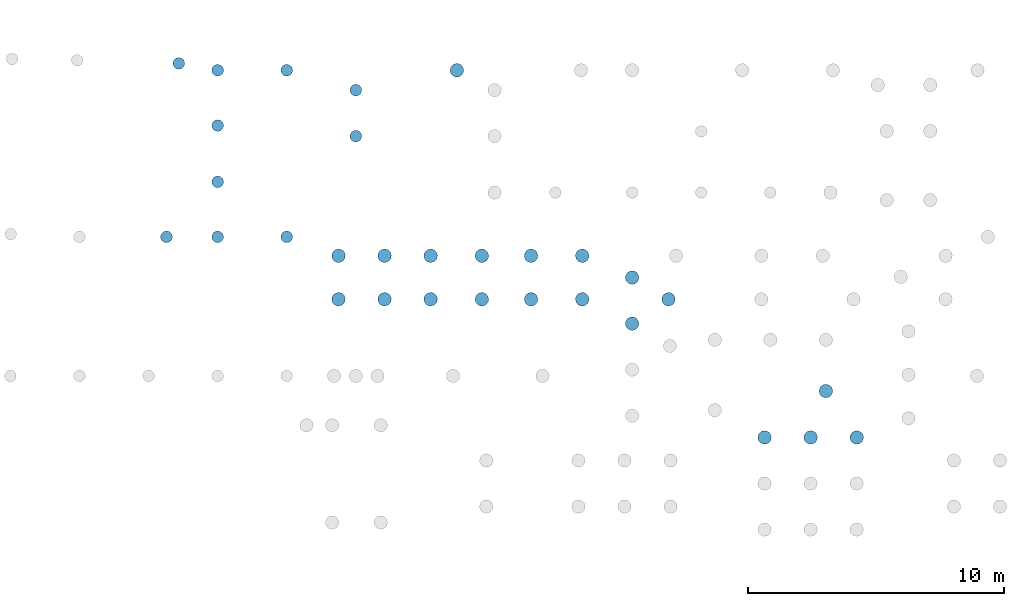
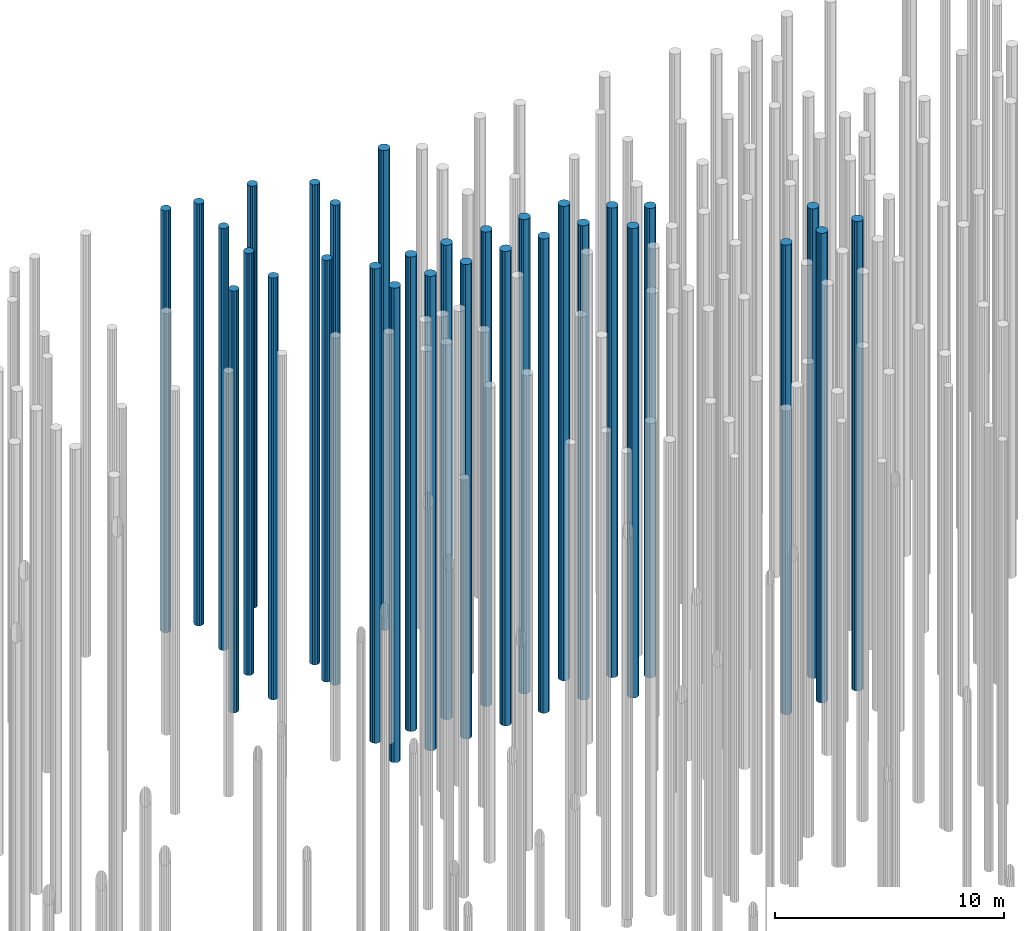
# One storey, part 16 of 20: 30 piles.
"""IFC2X3 building model written with IfcOpenShell, lengths in millimetres."""

from ifc_helpers import new_model, entity, si_unit, converted_unit, derived_unit, direction, frame, origin, place, context, subcontext, project, spatial, polyline, outline, extrude, material, element, save


model = new_model("IFC2X3")

# Units and contexts
model_context = context("Model", 3, precision=0.01, world=origin(), true_north=direction((6.12303176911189e-17, 1.0)))
body_context = subcontext(model_context, "Body", "Model", "MODEL_VIEW")
ifc_project = project(units=[si_unit("LENGTHUNIT", "METRE", prefix="MILLI"), si_unit("AREAUNIT", "SQUARE_METRE"), si_unit("VOLUMEUNIT", "CUBIC_METRE"), converted_unit("PLANEANGLEUNIT", "DEGREE", entity("IfcRatioMeasure", 0.0174532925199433), si_unit("PLANEANGLEUNIT", "RADIAN"), dimensions=[0, 0, 0, 0, 0, 0, 0]), si_unit("MASSUNIT", "GRAM", prefix="KILO"), derived_unit("MASSDENSITYUNIT", [(si_unit("MASSUNIT", "GRAM", prefix="KILO"), 1), (si_unit("LENGTHUNIT", "METRE"), -3)]), si_unit("TIMEUNIT", "SECOND"), si_unit("FREQUENCYUNIT", "HERTZ"), si_unit("THERMODYNAMICTEMPERATUREUNIT", "DEGREE_CELSIUS"), derived_unit("THERMALTRANSMITTANCEUNIT", [(si_unit("MASSUNIT", "GRAM", prefix="KILO"), 1), (si_unit("THERMODYNAMICTEMPERATUREUNIT", "KELVIN"), -1), (si_unit("TIMEUNIT", "SECOND"), -3)]), derived_unit("VOLUMETRICFLOWRATEUNIT", [(si_unit("LENGTHUNIT", "METRE"), 3), (si_unit("TIMEUNIT", "SECOND"), -1)]), si_unit("ELECTRICCURRENTUNIT", "AMPERE"), si_unit("ELECTRICVOLTAGEUNIT", "VOLT"), si_unit("POWERUNIT", "WATT"), si_unit("FORCEUNIT", "NEWTON", prefix="KILO"), si_unit("ILLUMINANCEUNIT", "LUX"), si_unit("LUMINOUSFLUXUNIT", "LUMEN"), si_unit("LUMINOUSINTENSITYUNIT", "CANDELA"), derived_unit("USERDEFINED", [(si_unit("MASSUNIT", "GRAM", prefix="KILO"), -1), (si_unit("LENGTHUNIT", "METRE"), -2), (si_unit("TIMEUNIT", "SECOND"), 3), (si_unit("LUMINOUSFLUXUNIT", "LUMEN"), 1)]), derived_unit("LINEARVELOCITYUNIT", [(si_unit("LENGTHUNIT", "METRE"), 1), (si_unit("TIMEUNIT", "SECOND"), -1)]), si_unit("PRESSUREUNIT", "PASCAL"), derived_unit("USERDEFINED", [(si_unit("LENGTHUNIT", "METRE"), -2), (si_unit("MASSUNIT", "GRAM", prefix="KILO"), 1), (si_unit("TIMEUNIT", "SECOND"), -2)])], contexts=[model_context])

# Site, building, storey
site_placement = place(None, origin())
site = spatial("IfcSite", under=ifc_project, at=site_placement, Name="Default", CompositionType="ELEMENT")
building_placement = place(site_placement, origin())
building = spatial("IfcBuilding", under=site, at=building_placement, Name="niet gebruiken", CompositionType="ELEMENT")
storey_placement = place(building_placement, frame((0.0, 0.0, -4000.0)))
storey = spatial("IfcBuildingStorey", under=building, at=storey_placement, Name="Level t.b.v. palenplan", CompositionType="ELEMENT", Elevation=-4000.0)

# Piles
ifc_material = material(Name="NLRS_f2_beton ihwg")
pile_1_placement = place(storey_placement, origin())
element("IfcPile", 1, at=pile_1_placement, inside=storey, material=ifc_material, Name="NLRS_17.12_SFO_TLB_funderingspaal grondverdringend_gen:Fundex_r530/650", ObjectType="NLRS_17.12_SFO_TLB_funderingspaal grondverdringend_gen:Fundex_r530/650", context=body_context, shape_type="SweptSolid", body=[
    extrude(outline(polyline([(-55.0965980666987, -259.209114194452), (55.0965980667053, -259.209114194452), (155.76309185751, -214.389503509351), (229.496732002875, -132.499999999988), (263.548302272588, -27.7000427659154), (252.029976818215, 81.8895035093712), (196.933378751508, 177.319610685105), (107.785210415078, 242.089546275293), (55.0965980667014, 259.209114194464), (-55.0965980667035, 259.20911419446), (-155.763091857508, 214.389503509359), (-229.496732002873, 132.499999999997), (-263.548302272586, 27.7000427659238), (-252.029976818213, -81.8895035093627), (-196.933378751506, -177.319610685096), (-107.785210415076, -242.089546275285), (-55.0965980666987, -259.209114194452)])), frame((95175.0, 38781.0, -23100.0), z_axis=(0.0, 0.0, 1.0), x_axis=(-0.97814760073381, -0.207911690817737, 0.0)), (0.0, 0.0, 1.0), 25070.0),
])
pile_2_placement = place(storey_placement, origin())
element("IfcPile", 2, at=pile_2_placement, inside=storey, material=ifc_material, Name="NLRS_17.12_SFO_TLB_funderingspaal grondverdringend_gen:Fundex_r530/650", ObjectType="NLRS_17.12_SFO_TLB_funderingspaal grondverdringend_gen:Fundex_r530/650", context=body_context, shape_type="SweptSolid", body=[
    extrude(outline(polyline([(-55.0965980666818, -259.209114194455), (55.0965980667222, -259.209114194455), (155.763091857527, -214.389503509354), (229.496732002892, -132.499999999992), (263.548302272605, -27.700042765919), (252.029976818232, 81.8895035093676), (196.933378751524, 177.319610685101), (107.785210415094, 242.08954627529), (55.0965980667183, 259.209114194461), (-55.0965980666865, 259.209114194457), (-155.763091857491, 214.389503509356), (-229.496732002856, 132.499999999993), (-263.548302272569, 27.7000427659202), (-252.029976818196, -81.8895035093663), (-196.933378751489, -177.3196106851), (-107.785210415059, -242.089546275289), (-55.0965980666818, -259.209114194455)])), frame((93375.0, 38781.0, -23100.0), z_axis=(0.0, 0.0, 1.0), x_axis=(-0.97814760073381, -0.207911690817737, 0.0)), (0.0, 0.0, 1.0), 25070.0),
])
pile_3_placement = place(storey_placement, origin())
element("IfcPile", 3, at=pile_3_placement, inside=storey, material=ifc_material, Name="NLRS_17.12_SFO_TLB_funderingspaal grondverdringend_gen:Fundex_r530/650", ObjectType="NLRS_17.12_SFO_TLB_funderingspaal grondverdringend_gen:Fundex_r530/650", context=body_context, shape_type="SweptSolid", body=[
    extrude(outline(polyline([(-55.0965980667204, -259.209114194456), (55.0965980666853, -259.209114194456), (155.763091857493, -214.389503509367), (229.496732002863, -132.500000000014), (263.548302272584, -27.7000427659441), (252.029976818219, 81.8895035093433), (196.93337875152, 177.319610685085), (107.785210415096, 242.089546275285), (55.0965980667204, 259.209114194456), (-55.0965980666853, 259.209114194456), (-155.763091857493, 214.389503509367), (-229.496732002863, 132.500000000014), (-263.548302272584, 27.7000427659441), (-252.029976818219, -81.8895035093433), (-196.93337875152, -177.319610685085), (-107.785210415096, -242.089546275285), (-55.0965980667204, -259.209114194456)])), frame((86400.0, 43231.0, -23100.0), z_axis=(0.0, 0.0, 1.0), x_axis=(-0.978147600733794, -0.207911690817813, 0.0)), (0.0, 0.0, 1.0), 25070.0),
])
pile_4_placement = place(storey_placement, origin())
element("IfcPile", 4, at=pile_4_placement, inside=storey, material=ifc_material, Name="NLRS_17.12_SFO_TLB_funderingspaal grondverdringend_gen:Fundex_r530/650", ObjectType="NLRS_17.12_SFO_TLB_funderingspaal grondverdringend_gen:Fundex_r530/650", context=body_context, shape_type="SweptSolid", body=[
    extrude(outline(polyline([(-55.0965980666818, -259.209114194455), (55.0965980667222, -259.209114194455), (155.763091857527, -214.389503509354), (229.496732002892, -132.499999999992), (263.548302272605, -27.700042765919), (252.029976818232, 81.8895035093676), (196.933378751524, 177.319610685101), (107.785210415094, 242.08954627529), (55.0965980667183, 259.209114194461), (-55.0965980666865, 259.209114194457), (-155.763091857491, 214.389503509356), (-229.496732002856, 132.499999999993), (-263.548302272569, 27.7000427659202), (-252.029976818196, -81.8895035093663), (-196.933378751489, -177.3196106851), (-107.785210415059, -242.089546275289), (-55.0965980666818, -259.209114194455)])), frame((91575.0, 38781.0, -23100.0), z_axis=(0.0, 0.0, 1.0), x_axis=(-0.97814760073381, -0.207911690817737, 0.0)), (0.0, 0.0, 1.0), 25070.0),
])
pile_5_placement = place(storey_placement, origin())
element("IfcPile", 5, at=pile_5_placement, inside=storey, material=ifc_material, Name="NLRS_17.12_SFO_TLB_funderingspaal grondverdringend_gen:Fundex_r530/650", ObjectType="NLRS_17.12_SFO_TLB_funderingspaal grondverdringend_gen:Fundex_r530/650", context=body_context, shape_type="SweptSolid", body=[
    extrude(outline(polyline([(-55.0965980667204, -259.209114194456), (55.0965980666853, -259.209114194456), (155.763091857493, -214.389503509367), (229.496732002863, -132.500000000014), (263.548302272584, -27.7000427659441), (252.029976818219, 81.8895035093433), (196.93337875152, 177.319610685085), (107.785210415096, 242.089546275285), (55.0965980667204, 259.209114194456), (-55.0965980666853, 259.209114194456), (-155.763091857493, 214.389503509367), (-229.496732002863, 132.500000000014), (-263.548302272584, 27.7000427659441), (-252.029976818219, -81.8895035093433), (-196.93337875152, -177.319610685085), (-107.785210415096, -242.089546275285), (-55.0965980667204, -259.209114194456)])), frame((93970.0, 40596.0, -23100.0), z_axis=(0.0, 0.0, 1.0), x_axis=(-0.978147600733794, -0.207911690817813, 0.0)), (0.0, 0.0, 1.0), 25070.0),
])
pile_6_placement = place(storey_placement, origin())
element("IfcPile", 6, at=pile_6_placement, inside=storey, material=ifc_material, Name="NLRS_17.12_SFO_TLB_funderingspaal grondverdringend_gen:Fundex_r530/650", ObjectType="NLRS_17.12_SFO_TLB_funderingspaal grondverdringend_gen:Fundex_r530/650", context=body_context, shape_type="SweptSolid", body=[
    extrude(outline(polyline([(-55.0965980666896, -259.209114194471), (55.0965980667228, -259.209114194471), (155.76309185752, -214.389503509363), (229.49673200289, -132.500000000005), (263.548302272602, -27.7000427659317), (252.029976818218, 81.8895035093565), (196.93337875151, 177.319610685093), (107.785210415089, 242.089546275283), (55.0965980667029, 259.209114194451), (-55.0965980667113, 259.209114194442), (-155.763091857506, 214.389503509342), (-229.496732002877, 132.499999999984), (-263.548302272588, 27.7000427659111), (-252.029976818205, -81.889503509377), (-196.933378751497, -177.319610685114), (-107.785210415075, -242.089546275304), (-55.0965980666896, -259.209114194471)])), frame((74925.0, 44181.0, -23100.0), z_axis=(0.0, 0.0, 1.0), x_axis=(-0.978147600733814, -0.207911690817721, 0.0)), (0.0, 0.0, 1.0), 25328.0),
])
pile_7_placement = place(storey_placement, origin())
element("IfcPile", 7, at=pile_7_placement, inside=storey, material=ifc_material, Name="NLRS_17.12_SFO_TLB_funderingspaal grondverdringend_gen:Fundex_r530/650", ObjectType="NLRS_17.12_SFO_TLB_funderingspaal grondverdringend_gen:Fundex_r530/650", context=body_context, shape_type="SweptSolid", body=[
    extrude(outline(polyline([(-55.0965980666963, -259.209114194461), (55.0965980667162, -259.209114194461), (155.763091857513, -214.389503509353), (229.496732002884, -132.499999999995), (263.548302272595, -27.7000427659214), (252.029976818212, 81.8895035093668), (196.933378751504, 177.319610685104), (107.785210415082, 242.089546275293), (55.0965980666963, 259.209114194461), (-55.096598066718, 259.209114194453), (-155.763091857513, 214.389503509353), (-229.496732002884, 132.499999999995), (-263.548302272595, 27.7000427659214), (-252.029976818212, -81.8895035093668), (-196.933378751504, -177.319610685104), (-107.785210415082, -242.089546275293), (-55.0965980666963, -259.209114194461)])), frame((74925.0, 45881.0, -23100.0), z_axis=(0.0, 0.0, 1.0), x_axis=(-0.978147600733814, -0.207911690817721, 0.0)), (0.0, 0.0, 1.0), 25328.0),
])
pile_8_placement = place(storey_placement, origin())
element("IfcPile", 8, at=pile_8_placement, inside=storey, material=ifc_material, Name="NLRS_17.12_SFO_TLB_funderingspaal grondverdringend_gen:Fundex_r530/650", ObjectType="NLRS_17.12_SFO_TLB_funderingspaal grondverdringend_gen:Fundex_r530/650", context=body_context, shape_type="SweptSolid", body=[
    extrude(outline(polyline([(-55.0965980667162, -259.209114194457), (55.096598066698, -259.209114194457), (155.763091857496, -214.389503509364), (229.496732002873, -132.500000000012), (263.548302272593, -27.7000427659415), (252.029976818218, 81.8895035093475), (196.933378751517, 177.319610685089), (107.785210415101, 242.089546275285), (55.0965980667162, 259.209114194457), (-55.096598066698, 259.209114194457), (-155.763091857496, 214.389503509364), (-229.496732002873, 132.500000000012), (-263.548302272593, 27.7000427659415), (-252.029976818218, -81.8895035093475), (-196.933378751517, -177.319610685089), (-107.785210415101, -242.089546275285), (-55.0965980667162, -259.209114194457)])), frame((76725.0, 44181.0, -23100.0), z_axis=(0.0, 0.0, 1.0), x_axis=(-0.978147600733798, -0.207911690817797, 0.0)), (0.0, 0.0, 1.0), 25328.0),
])
pile_9_placement = place(storey_placement, origin())
element("IfcPile", 9, at=pile_9_placement, inside=storey, material=ifc_material, Name="NLRS_17.12_SFO_TLB_funderingspaal grondverdringend_gen:Fundex_r530/650", ObjectType="NLRS_17.12_SFO_TLB_funderingspaal grondverdringend_gen:Fundex_r530/650", context=body_context, shape_type="SweptSolid", body=[
    extrude(outline(polyline([(-55.0965980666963, -259.209114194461), (55.0965980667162, -259.209114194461), (155.763091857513, -214.389503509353), (229.496732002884, -132.499999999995), (263.548302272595, -27.7000427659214), (252.029976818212, 81.8895035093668), (196.933378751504, 177.319610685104), (107.785210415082, 242.089546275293), (55.0965980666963, 259.209114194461), (-55.096598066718, 259.209114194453), (-155.763091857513, 214.389503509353), (-229.496732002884, 132.499999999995), (-263.548302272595, 27.7000427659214), (-252.029976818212, -81.8895035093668), (-196.933378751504, -177.319610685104), (-107.785210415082, -242.089546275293), (-55.0965980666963, -259.209114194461)])), frame((76725.0, 45881.0, -23100.0), z_axis=(0.0, 0.0, 1.0), x_axis=(-0.978147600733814, -0.207911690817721, 0.0)), (0.0, 0.0, 1.0), 25328.0),
])
pile_10_placement = place(storey_placement, origin())
element("IfcPile", 10, at=pile_10_placement, inside=storey, material=ifc_material, Name="NLRS_17.12_SFO_TLB_funderingspaal grondverdringend_gen:Fundex_r530/650", ObjectType="NLRS_17.12_SFO_TLB_funderingspaal grondverdringend_gen:Fundex_r530/650", context=body_context, shape_type="SweptSolid", body=[
    extrude(outline(polyline([(-55.0965980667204, -259.209114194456), (55.0965980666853, -259.209114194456), (155.763091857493, -214.389503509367), (229.496732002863, -132.500000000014), (263.548302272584, -27.7000427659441), (252.029976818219, 81.8895035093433), (196.93337875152, 177.319610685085), (107.785210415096, 242.089546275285), (55.0965980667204, 259.209114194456), (-55.0965980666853, 259.209114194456), (-155.763091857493, 214.389503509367), (-229.496732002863, 132.500000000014), (-263.548302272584, 27.7000427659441), (-252.029976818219, -81.8895035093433), (-196.93337875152, -177.319610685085), (-107.785210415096, -242.089546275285), (-55.0965980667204, -259.209114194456)])), frame((78525.0, 44181.0, -23100.0), z_axis=(0.0, 0.0, 1.0), x_axis=(-0.978147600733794, -0.207911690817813, 0.0)), (0.0, 0.0, 1.0), 25328.0),
])
pile_11_placement = place(storey_placement, origin())
element("IfcPile", 11, at=pile_11_placement, inside=storey, material=ifc_material, Name="NLRS_17.12_SFO_TLB_funderingspaal grondverdringend_gen:Fundex_r530/650", ObjectType="NLRS_17.12_SFO_TLB_funderingspaal grondverdringend_gen:Fundex_r530/650", context=body_context, shape_type="SweptSolid", body=[
    extrude(outline(polyline([(-55.0965980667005, -259.20911419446), (55.0965980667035, -259.20911419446), (155.763091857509, -214.389503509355), (229.496732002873, -132.499999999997), (263.548302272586, -27.7000427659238), (252.029976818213, 81.8895035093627), (196.933378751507, 177.319610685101), (107.785210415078, 242.089546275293), (55.0965980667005, 259.20911419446), (-55.0965980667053, 259.209114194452), (-155.763091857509, 214.389503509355), (-229.496732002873, 132.499999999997), (-263.548302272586, 27.7000427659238), (-252.029976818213, -81.8895035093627), (-196.933378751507, -177.319610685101), (-107.785210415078, -242.089546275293), (-55.0965980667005, -259.20911419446)])), frame((78525.0, 45881.0, -23100.0), z_axis=(0.0, 0.0, 1.0), x_axis=(-0.97814760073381, -0.207911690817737, 0.0)), (0.0, 0.0, 1.0), 25328.0),
])
pile_12_placement = place(storey_placement, origin())
element("IfcPile", 12, at=pile_12_placement, inside=storey, material=ifc_material, Name="NLRS_17.12_SFO_TLB_funderingspaal grondverdringend_gen:Fundex_r530/650", ObjectType="NLRS_17.12_SFO_TLB_funderingspaal grondverdringend_gen:Fundex_r530/650", context=body_context, shape_type="SweptSolid", body=[
    extrude(outline(polyline([(-55.0965980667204, -259.209114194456), (55.0965980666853, -259.209114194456), (155.763091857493, -214.389503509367), (229.496732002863, -132.500000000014), (263.548302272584, -27.7000427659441), (252.029976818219, 81.8895035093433), (196.93337875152, 177.319610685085), (107.785210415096, 242.089546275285), (55.0965980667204, 259.209114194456), (-55.0965980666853, 259.209114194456), (-155.763091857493, 214.389503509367), (-229.496732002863, 132.500000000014), (-263.548302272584, 27.7000427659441), (-252.029976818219, -81.8895035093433), (-196.93337875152, -177.319610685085), (-107.785210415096, -242.089546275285), (-55.0965980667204, -259.209114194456)])), frame((80525.0, 44181.0, -23100.0), z_axis=(0.0, 0.0, 1.0), x_axis=(-0.978147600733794, -0.207911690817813, 0.0)), (0.0, 0.0, 1.0), 25328.0),
])
pile_13_placement = place(storey_placement, origin())
element("IfcPile", 13, at=pile_13_placement, inside=storey, material=ifc_material, Name="NLRS_17.12_SFO_TLB_funderingspaal grondverdringend_gen:Fundex_r530/650", ObjectType="NLRS_17.12_SFO_TLB_funderingspaal grondverdringend_gen:Fundex_r530/650", context=body_context, shape_type="SweptSolid", body=[
    extrude(outline(polyline([(-55.0965980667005, -259.20911419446), (55.0965980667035, -259.20911419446), (155.763091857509, -214.389503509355), (229.496732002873, -132.499999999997), (263.548302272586, -27.7000427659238), (252.029976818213, 81.8895035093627), (196.933378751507, 177.319610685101), (107.785210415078, 242.089546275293), (55.0965980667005, 259.20911419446), (-55.0965980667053, 259.209114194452), (-155.763091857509, 214.389503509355), (-229.496732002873, 132.499999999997), (-263.548302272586, 27.7000427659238), (-252.029976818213, -81.8895035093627), (-196.933378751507, -177.319610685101), (-107.785210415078, -242.089546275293), (-55.0965980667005, -259.20911419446)])), frame((80525.0, 45881.0, -23100.0), z_axis=(0.0, 0.0, 1.0), x_axis=(-0.97814760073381, -0.207911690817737, 0.0)), (0.0, 0.0, 1.0), 25328.0),
])
pile_14_placement = place(storey_placement, origin())
element("IfcPile", 14, at=pile_14_placement, inside=storey, material=ifc_material, Name="NLRS_17.12_SFO_TLB_funderingspaal grondverdringend_gen:Fundex_r530/650", ObjectType="NLRS_17.12_SFO_TLB_funderingspaal grondverdringend_gen:Fundex_r530/650", context=body_context, shape_type="SweptSolid", body=[
    extrude(outline(polyline([(-55.0965980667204, -259.209114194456), (55.0965980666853, -259.209114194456), (155.763091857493, -214.389503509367), (229.496732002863, -132.500000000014), (263.548302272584, -27.7000427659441), (252.029976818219, 81.8895035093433), (196.93337875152, 177.319610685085), (107.785210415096, 242.089546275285), (55.0965980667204, 259.209114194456), (-55.0965980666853, 259.209114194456), (-155.763091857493, 214.389503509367), (-229.496732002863, 132.500000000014), (-263.548302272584, 27.7000427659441), (-252.029976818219, -81.8895035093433), (-196.93337875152, -177.319610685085), (-107.785210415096, -242.089546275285), (-55.0965980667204, -259.209114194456)])), frame((82450.0, 44181.0, -23100.0), z_axis=(0.0, 0.0, 1.0), x_axis=(-0.978147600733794, -0.207911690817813, 0.0)), (0.0, 0.0, 1.0), 25328.0),
])
pile_15_placement = place(storey_placement, origin())
element("IfcPile", 15, at=pile_15_placement, inside=storey, material=ifc_material, Name="NLRS_17.12_SFO_TLB_funderingspaal grondverdringend_gen:Fundex_r530/650", ObjectType="NLRS_17.12_SFO_TLB_funderingspaal grondverdringend_gen:Fundex_r530/650", context=body_context, shape_type="SweptSolid", body=[
    extrude(outline(polyline([(-55.0965980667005, -259.20911419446), (55.0965980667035, -259.20911419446), (155.763091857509, -214.389503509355), (229.496732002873, -132.499999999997), (263.548302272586, -27.7000427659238), (252.029976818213, 81.8895035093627), (196.933378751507, 177.319610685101), (107.785210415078, 242.089546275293), (55.0965980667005, 259.20911419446), (-55.0965980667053, 259.209114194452), (-155.763091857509, 214.389503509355), (-229.496732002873, 132.499999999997), (-263.548302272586, 27.7000427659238), (-252.029976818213, -81.8895035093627), (-196.933378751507, -177.319610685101), (-107.785210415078, -242.089546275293), (-55.0965980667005, -259.20911419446)])), frame((82450.0, 45881.0, -23100.0), z_axis=(0.0, 0.0, 1.0), x_axis=(-0.97814760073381, -0.207911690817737, 0.0)), (0.0, 0.0, 1.0), 25328.0),
])
pile_16_placement = place(storey_placement, origin())
element("IfcPile", 16, at=pile_16_placement, inside=storey, material=ifc_material, Name="NLRS_17.12_SFO_TLB_funderingspaal grondverdringend_gen:Fundex_r530/650", ObjectType="NLRS_17.12_SFO_TLB_funderingspaal grondverdringend_gen:Fundex_r530/650", context=body_context, shape_type="SweptSolid", body=[
    extrude(outline(polyline([(-55.0965980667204, -259.209114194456), (55.0965980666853, -259.209114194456), (155.763091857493, -214.389503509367), (229.496732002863, -132.500000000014), (263.548302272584, -27.7000427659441), (252.029976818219, 81.8895035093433), (196.93337875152, 177.319610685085), (107.785210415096, 242.089546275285), (55.0965980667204, 259.209114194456), (-55.0965980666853, 259.209114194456), (-155.763091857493, 214.389503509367), (-229.496732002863, 132.500000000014), (-263.548302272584, 27.7000427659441), (-252.029976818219, -81.8895035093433), (-196.93337875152, -177.319610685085), (-107.785210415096, -242.089546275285), (-55.0965980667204, -259.209114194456)])), frame((87820.0, 44181.0, -23100.0), z_axis=(0.0, 0.0, 1.0), x_axis=(-0.978147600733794, -0.207911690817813, 0.0)), (0.0, 0.0, 1.0), 25070.0),
])
pile_17_placement = place(storey_placement, origin())
element("IfcPile", 17, at=pile_17_placement, inside=storey, material=ifc_material, Name="NLRS_17.12_SFO_TLB_funderingspaal grondverdringend_gen:Fundex_r530/650", ObjectType="NLRS_17.12_SFO_TLB_funderingspaal grondverdringend_gen:Fundex_r530/650", context=body_context, shape_type="SweptSolid", body=[
    extrude(outline(polyline([(-55.0965980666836, -259.209114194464), (55.0965980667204, -259.209114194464), (155.763091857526, -214.389503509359), (229.49673200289, -132.5), (263.548302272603, -27.7000427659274), (252.02997681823, 81.8895035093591), (196.933378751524, 177.319610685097), (107.785210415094, 242.08954627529), (55.0965980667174, 259.209114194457), (-55.0965980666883, 259.209114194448), (-155.763091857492, 214.389503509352), (-229.496732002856, 132.499999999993), (-263.548302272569, 27.7000427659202), (-252.029976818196, -81.8895035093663), (-196.93337875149, -177.319610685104), (-107.785210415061, -242.089546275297), (-55.0965980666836, -259.209114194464)])), frame((84450.0, 45881.0, -23100.0), z_axis=(0.0, 0.0, 1.0), x_axis=(-0.97814760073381, -0.207911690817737, 0.0)), (0.0, 0.0, 1.0), 25328.0),
])
pile_18_placement = place(storey_placement, origin())
element("IfcPile", 18, at=pile_18_placement, inside=storey, material=ifc_material, Name="NLRS_17.12_SFO_TLB_funderingspaal grondverdringend_gen:Fundex_r530/650", ObjectType="NLRS_17.12_SFO_TLB_funderingspaal grondverdringend_gen:Fundex_r530/650", context=body_context, shape_type="SweptSolid", body=[
    extrude(outline(polyline([(-55.0965980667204, -259.209114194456), (55.0965980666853, -259.209114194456), (155.763091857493, -214.389503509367), (229.496732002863, -132.500000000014), (263.548302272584, -27.7000427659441), (252.029976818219, 81.8895035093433), (196.93337875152, 177.319610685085), (107.785210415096, 242.089546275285), (55.0965980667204, 259.209114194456), (-55.0965980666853, 259.209114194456), (-155.763091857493, 214.389503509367), (-229.496732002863, 132.500000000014), (-263.548302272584, 27.7000427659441), (-252.029976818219, -81.8895035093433), (-196.93337875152, -177.319610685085), (-107.785210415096, -242.089546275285), (-55.0965980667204, -259.209114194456)])), frame((84450.0, 44181.0, -23100.0), z_axis=(0.0, 0.0, 1.0), x_axis=(-0.978147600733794, -0.207911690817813, 0.0)), (0.0, 0.0, 1.0), 25328.0),
])
pile_19_placement = place(storey_placement, origin())
element("IfcPile", 19, at=pile_19_placement, inside=storey, material=ifc_material, Name="NLRS_17.12_SFO_TLB_funderingspaal grondverdringend_gen:Fundex_r530/650", ObjectType="NLRS_17.12_SFO_TLB_funderingspaal grondverdringend_gen:Fundex_r530/650", context=body_context, shape_type="SweptSolid", body=[
    extrude(outline(polyline([(-55.0965980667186, -259.209114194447), (55.0965980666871, -259.209114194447), (155.763091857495, -214.389503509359), (229.496732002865, -132.500000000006), (263.548302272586, -27.7000427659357), (252.029976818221, 81.8895035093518), (196.933378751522, 177.319610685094), (107.785210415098, 242.089546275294), (55.0965980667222, 259.209114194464), (-55.0965980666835, 259.209114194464), (-155.763091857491, 214.389503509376), (-229.496732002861, 132.500000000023), (-263.548302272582, 27.7000427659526), (-252.029976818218, -81.8895035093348), (-196.933378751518, -177.319610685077), (-107.785210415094, -242.089546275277), (-55.0965980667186, -259.209114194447)])), frame((86400.0, 45031.0, -23100.0), z_axis=(0.0, 0.0, 1.0), x_axis=(-0.978147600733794, -0.207911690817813, 0.0)), (0.0, 0.0, 1.0), 25070.0),
])
pile_20_placement = place(storey_placement, origin())
element("IfcPile", 20, at=pile_20_placement, inside=storey, material=ifc_material, Name="NLRS_17.12_SFO_TLB_funderingspaal grondverdringend_gen:Fundex_r460/560", ObjectType="NLRS_17.12_SFO_TLB_funderingspaal grondverdringend_gen:Fundex_r460/560", context=body_context, shape_type="SweptSolid", body=[
    extrude(outline(polyline([(-25.7518295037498, -228.553808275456), (25.7518295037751, -228.553808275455), (122.367377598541, -194.746565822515), (194.746565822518, -122.367377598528), (228.553808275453, -25.7518295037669), (217.093165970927, 75.9641842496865), (162.634559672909, 162.634559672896), (75.9641842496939, 217.093165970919), (25.751829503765, 228.553808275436), (-25.7518295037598, 228.553808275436), (-122.367377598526, 194.746565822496), (-194.746565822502, 122.367377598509), (-228.553808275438, 25.7518295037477), (-217.093165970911, -75.9641842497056), (-162.634559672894, -162.634559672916), (-75.9641842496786, -217.093165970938), (-25.7518295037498, -228.553808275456)])), frame((70200.0, 53131.0, -19600.0), z_axis=(0.0, 0.0, 1.0), x_axis=(0.111964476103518, -0.993712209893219, 0.0)), (0.0, 0.0, 1.0), 22528.0),
])
pile_21_placement = place(storey_placement, origin())
element("IfcPile", 21, at=pile_21_placement, inside=storey, material=ifc_material, Name="NLRS_17.12_SFO_TLB_funderingspaal grondverdringend_gen:Fundex_r460/560", ObjectType="NLRS_17.12_SFO_TLB_funderingspaal grondverdringend_gen:Fundex_r460/560", context=body_context, shape_type="SweptSolid", body=[
    extrude(outline(polyline([(-25.7518295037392, -228.553808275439), (25.7518295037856, -228.553808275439), (122.367377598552, -194.746565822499), (194.746565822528, -122.367377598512), (228.553808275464, -25.7518295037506), (217.093165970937, 75.9641842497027), (162.634559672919, 162.634559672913), (75.9641842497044, 217.093165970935), (25.7518295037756, 228.553808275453), (-25.7518295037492, 228.553808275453), (-122.367377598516, 194.746565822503), (-194.746565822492, 122.367377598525), (-228.553808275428, 25.751829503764), (-217.093165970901, -75.9641842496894), (-162.634559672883, -162.634559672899), (-75.964184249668, -217.093165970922), (-25.7518295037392, -228.553808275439)])), frame((68682.9736842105, 53398.0146198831, -19600.0), z_axis=(0.0, 0.0, 1.0), x_axis=(0.111964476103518, -0.993712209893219, 0.0)), (0.0, 0.0, 1.0), 22528.0),
])
pile_22_placement = place(storey_placement, origin())
element("IfcPile", 22, at=pile_22_placement, inside=storey, material=ifc_material, Name="NLRS_17.12_SFO_TLB_funderingspaal grondverdringend_gen:Fundex_r460/560", ObjectType="NLRS_17.12_SFO_TLB_funderingspaal grondverdringend_gen:Fundex_r460/560", context=body_context, shape_type="SweptSolid", body=[
    extrude(outline(polyline([(-25.7518295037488, -228.553808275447), (25.751829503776, -228.553808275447), (122.367377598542, -194.746565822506), (194.746565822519, -122.367377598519), (228.553808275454, -25.7518295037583), (217.093165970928, 75.9641842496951), (162.63455967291, 162.634559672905), (75.9641842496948, 217.093165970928), (25.751829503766, 228.553808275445), (-25.7518295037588, 228.553808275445), (-122.367377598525, 194.746565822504), (-194.746565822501, 122.367377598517), (-228.553808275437, 25.7518295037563), (-217.09316597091, -75.964184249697), (-162.634559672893, -162.634559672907), (-75.9641842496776, -217.09316597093), (-25.7518295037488, -228.553808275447)])), frame((72900.0, 53131.0, -19600.0), z_axis=(0.0, 0.0, 1.0), x_axis=(0.111964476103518, -0.993712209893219, 0.0)), (0.0, 0.0, 1.0), 22528.0),
])
pile_23_placement = place(storey_placement, origin())
element("IfcPile", 23, at=pile_23_placement, inside=storey, material=ifc_material, Name="NLRS_17.12_SFO_TLB_funderingspaal grondverdringend_gen:Fundex_r460/560", ObjectType="NLRS_17.12_SFO_TLB_funderingspaal grondverdringend_gen:Fundex_r460/560", context=body_context, shape_type="SweptSolid", body=[
    extrude(outline(polyline([(-25.7518295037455, -228.553808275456), (25.7518295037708, -228.553808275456), (122.367377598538, -194.746565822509), (194.746565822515, -122.367377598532), (228.553808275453, -25.7518295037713), (217.093165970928, 75.9641842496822), (162.634559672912, 162.634559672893), (75.9641842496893, 217.093165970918), (25.7518295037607, 228.553808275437), (-25.7518295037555, 228.553808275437), (-122.367377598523, 194.74656582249), (-194.7465658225, 122.367377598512), (-228.553808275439, 25.7518295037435), (-217.093165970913, -75.9641842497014), (-162.634559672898, -162.634559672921), (-75.9641842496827, -217.093165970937), (-25.7518295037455, -228.553808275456)])), frame((75600.0, 52356.0, -23100.0), z_axis=(0.0, 0.0, 1.0), x_axis=(0.111964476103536, -0.993712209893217, 0.0)), (0.0, 0.0, 1.0), 25628.0),
])
pile_24_placement = place(storey_placement, origin())
element("IfcPile", 24, at=pile_24_placement, inside=storey, material=ifc_material, Name="NLRS_17.12_SFO_TLB_funderingspaal grondverdringend_gen:Fundex_r460/560", ObjectType="NLRS_17.12_SFO_TLB_funderingspaal grondverdringend_gen:Fundex_r460/560", context=body_context, shape_type="SweptSolid", body=[
    extrude(outline(polyline([(-25.7518295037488, -228.553808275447), (25.751829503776, -228.553808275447), (122.367377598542, -194.746565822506), (194.746565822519, -122.367377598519), (228.553808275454, -25.7518295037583), (217.093165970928, 75.9641842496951), (162.63455967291, 162.634559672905), (75.9641842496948, 217.093165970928), (25.751829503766, 228.553808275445), (-25.7518295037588, 228.553808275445), (-122.367377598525, 194.746565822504), (-194.746565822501, 122.367377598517), (-228.553808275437, 25.7518295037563), (-217.09316597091, -75.964184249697), (-162.634559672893, -162.634559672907), (-75.9641842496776, -217.09316597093), (-25.7518295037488, -228.553808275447)])), frame((75600.0, 50556.0, -23100.0), z_axis=(0.0, 0.0, 1.0), x_axis=(0.111964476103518, -0.993712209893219, 0.0)), (0.0, 0.0, 1.0), 25628.0),
])
pile_25_placement = place(storey_placement, origin())
element("IfcPile", 25, at=pile_25_placement, inside=storey, material=ifc_material, Name="NLRS_17.12_SFO_TLB_funderingspaal grondverdringend_gen:Fundex_r460/560", ObjectType="NLRS_17.12_SFO_TLB_funderingspaal grondverdringend_gen:Fundex_r460/560", context=body_context, shape_type="SweptSolid", body=[
    extrude(outline(polyline([(-25.7518295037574, -228.553808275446), (25.7518295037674, -228.553808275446), (122.367377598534, -194.746565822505), (194.74656582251, -122.367377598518), (228.553808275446, -25.7518295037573), (217.093165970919, 75.964184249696), (162.634559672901, 162.634559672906), (75.9641842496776, 217.09316597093), (25.7518295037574, 228.553808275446), (-25.7518295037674, 228.553808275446), (-122.367377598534, 194.746565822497), (-194.74656582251, 122.367377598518), (-228.553808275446, 25.7518295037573), (-217.093165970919, -75.964184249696), (-162.634559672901, -162.634559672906), (-75.9641842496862, -217.093165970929), (-25.7518295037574, -228.553808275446)])), frame((72900.0, 46621.0, -19600.0), z_axis=(0.0, 0.0, 1.0), x_axis=(0.111964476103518, -0.993712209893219, 0.0)), (0.0, 0.0, 1.0), 22518.0),
])
pile_26_placement = place(storey_placement, origin())
element("IfcPile", 26, at=pile_26_placement, inside=storey, material=ifc_material, Name="NLRS_17.12_SFO_TLB_funderingspaal grondverdringend_gen:Fundex_r460/560", ObjectType="NLRS_17.12_SFO_TLB_funderingspaal grondverdringend_gen:Fundex_r460/560", context=body_context, shape_type="SweptSolid", body=[
    extrude(outline(polyline([(-25.7518295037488, -228.553808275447), (25.751829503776, -228.553808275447), (122.367377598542, -194.746565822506), (194.746565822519, -122.367377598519), (228.553808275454, -25.7518295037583), (217.093165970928, 75.9641842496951), (162.63455967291, 162.634559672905), (75.9641842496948, 217.093165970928), (25.751829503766, 228.553808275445), (-25.7518295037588, 228.553808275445), (-122.367377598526, 194.746565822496), (-194.746565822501, 122.367377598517), (-228.553808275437, 25.7518295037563), (-217.09316597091, -75.964184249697), (-162.634559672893, -162.634559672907), (-75.9641842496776, -217.09316597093), (-25.7518295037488, -228.553808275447)])), frame((70200.0, 46621.0, -19600.0), z_axis=(0.0, 0.0, 1.0), x_axis=(0.111964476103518, -0.993712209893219, 0.0)), (0.0, 0.0, 1.0), 22518.0),
])
pile_27_placement = place(storey_placement, origin())
element("IfcPile", 27, at=pile_27_placement, inside=storey, material=ifc_material, Name="NLRS_17.12_SFO_TLB_funderingspaal grondverdringend_gen:Fundex_r460/560", ObjectType="NLRS_17.12_SFO_TLB_funderingspaal grondverdringend_gen:Fundex_r460/560", context=body_context, shape_type="SweptSolid", body=[
    extrude(outline(polyline([(-25.7518295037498, -228.553808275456), (25.7518295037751, -228.553808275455), (122.367377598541, -194.746565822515), (194.746565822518, -122.367377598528), (228.553808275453, -25.7518295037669), (217.093165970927, 75.9641842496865), (162.634559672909, 162.634559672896), (75.9641842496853, 217.09316597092), (25.751829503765, 228.553808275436), (-25.7518295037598, 228.553808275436), (-122.367377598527, 194.746565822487), (-194.746565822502, 122.367377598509), (-228.553808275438, 25.7518295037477), (-217.093165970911, -75.9641842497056), (-162.634559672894, -162.634559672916), (-75.9641842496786, -217.093165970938), (-25.7518295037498, -228.553808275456)])), frame((70200.0, 48771.0, -19600.0), z_axis=(0.0, 0.0, 1.0), x_axis=(0.111964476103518, -0.993712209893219, 0.0)), (0.0, 0.0, 1.0), 22528.0),
])
pile_28_placement = place(storey_placement, origin())
element("IfcPile", 28, at=pile_28_placement, inside=storey, material=ifc_material, Name="NLRS_17.12_SFO_TLB_funderingspaal grondverdringend_gen:Fundex_r460/560", ObjectType="NLRS_17.12_SFO_TLB_funderingspaal grondverdringend_gen:Fundex_r460/560", context=body_context, shape_type="SweptSolid", body=[
    extrude(outline(polyline([(-25.7518295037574, -228.553808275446), (25.7518295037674, -228.553808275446), (122.367377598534, -194.746565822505), (194.74656582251, -122.367377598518), (228.553808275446, -25.7518295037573), (217.093165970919, 75.964184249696), (162.634559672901, 162.634559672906), (75.9641842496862, 217.093165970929), (25.7518295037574, 228.553808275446), (-25.7518295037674, 228.553808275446), (-122.367377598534, 194.746565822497), (-194.74656582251, 122.367377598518), (-228.553808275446, 25.7518295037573), (-217.093165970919, -75.964184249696), (-162.634559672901, -162.634559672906), (-75.9641842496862, -217.093165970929), (-25.7518295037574, -228.553808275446)])), frame((70200.0, 50971.0, -19600.0), z_axis=(0.0, 0.0, 1.0), x_axis=(0.111964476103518, -0.993712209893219, 0.0)), (0.0, 0.0, 1.0), 22528.0),
])
pile_29_placement = place(storey_placement, origin())
element("IfcPile", 29, at=pile_29_placement, inside=storey, material=ifc_material, Name="NLRS_17.12_SFO_TLB_funderingspaal grondverdringend_gen:Fundex_r460/560", ObjectType="NLRS_17.12_SFO_TLB_funderingspaal grondverdringend_gen:Fundex_r460/560", context=body_context, shape_type="SweptSolid", body=[
    extrude(outline(polyline([(-25.7518295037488, -228.553808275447), (25.751829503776, -228.553808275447), (122.367377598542, -194.746565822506), (194.746565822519, -122.367377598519), (228.553808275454, -25.7518295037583), (217.093165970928, 75.9641842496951), (162.63455967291, 162.634559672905), (75.9641842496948, 217.093165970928), (25.751829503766, 228.553808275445), (-25.7518295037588, 228.553808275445), (-122.367377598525, 194.746565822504), (-194.746565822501, 122.367377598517), (-228.553808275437, 25.7518295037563), (-217.09316597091, -75.964184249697), (-162.634559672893, -162.634559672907), (-75.9641842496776, -217.09316597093), (-25.7518295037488, -228.553808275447)])), frame((68200.0, 46621.0, -19600.0), z_axis=(0.0, 0.0, 1.0), x_axis=(0.111964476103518, -0.993712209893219, 0.0)), (0.0, 0.0, 1.0), 22518.0),
])
pile_30_placement = place(storey_placement, origin())
element("IfcPile", 30, at=pile_30_placement, inside=storey, material=ifc_material, Name="NLRS_17.12_SFO_TLB_funderingspaal grondverdringend_gen:Fundex_r530/650", ObjectType="NLRS_17.12_SFO_TLB_funderingspaal grondverdringend_gen:Fundex_r530/650", context=body_context, shape_type="SweptSolid", body=[
    extrude(outline(polyline([(-55.0965980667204, -259.209114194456), (55.0965980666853, -259.209114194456), (155.763091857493, -214.389503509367), (229.496732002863, -132.500000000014), (263.548302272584, -27.7000427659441), (252.029976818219, 81.8895035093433), (196.93337875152, 177.319610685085), (107.785210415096, 242.089546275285), (55.0965980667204, 259.209114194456), (-55.0965980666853, 259.209114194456), (-155.763091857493, 214.389503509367), (-229.496732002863, 132.500000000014), (-263.548302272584, 27.7000427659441), (-252.029976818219, -81.8895035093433), (-196.93337875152, -177.319610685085), (-107.785210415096, -242.089546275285), (-55.0965980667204, -259.209114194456)])), frame((79550.0, 53131.0, -23100.0), z_axis=(0.0, 0.0, 1.0), x_axis=(-0.978147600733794, -0.207911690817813, 0.0)), (0.0, 0.0, 1.0), 25628.0),
])

save(model, "model.ifc")
